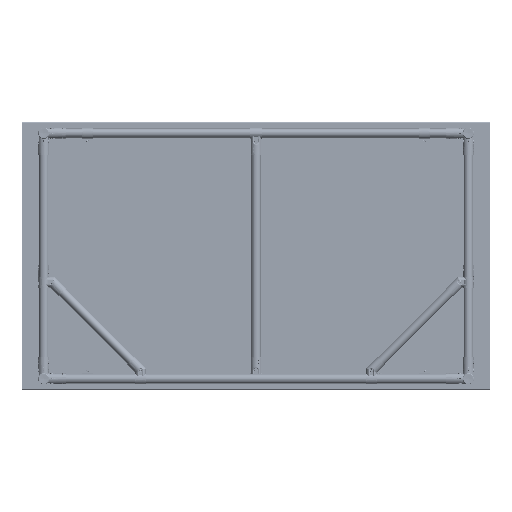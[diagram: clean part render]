
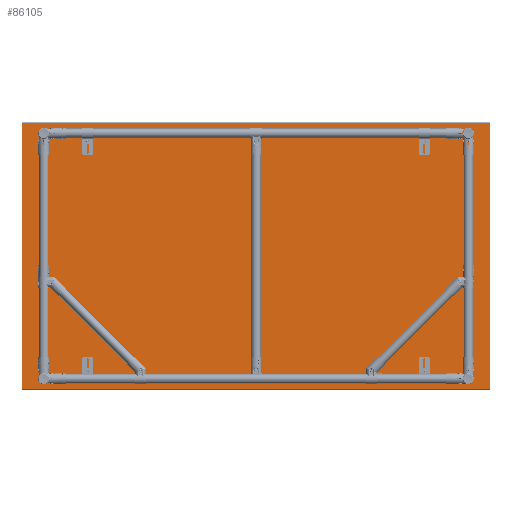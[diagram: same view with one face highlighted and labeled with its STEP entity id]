
A CAD part, front view. The second image highlights one B-rep face of the part: STEP entity #86105.
In plain terms, the highlighted planar face has unit normal (0, -1, 0) as drawn and (0, 0, -1) by its records, which use the part's own axes.
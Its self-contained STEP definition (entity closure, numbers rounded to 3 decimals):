
#5009 = CARTESIAN_POINT ( 'NONE',  ( 0., -399.2, 0. ) ) ;
#9926 = EDGE_CURVE ( 'NONE', #85460, #23663, #49194, .T. ) ;
#11237 = CARTESIAN_POINT ( 'NONE',  ( 699.2, 399.2, 0. ) ) ;
#12328 = EDGE_CURVE ( 'NONE', #65609, #79382, #26772, .T. ) ;
#15194 = EDGE_CURVE ( 'NONE', #79382, #85460, #19279, .T. ) ;
#19279 = LINE ( 'NONE', #28763, #80836 ) ;
#21098 = CARTESIAN_POINT ( 'NONE',  ( 699.2, -399.2, 0. ) ) ;
#22032 = DIRECTION ( 'NONE',  ( 1., 0., 0. ) ) ;
#22444 = VECTOR ( 'NONE', #103303, 1000. ) ;
#23663 = VERTEX_POINT ( 'NONE', #21098 ) ;
#26772 = LINE ( 'NONE', #75688, #43356 ) ;
#28763 = CARTESIAN_POINT ( 'NONE',  ( 0., 399.2, 0. ) ) ;
#30752 = EDGE_CURVE ( 'NONE', #23663, #65609, #78873, .T. ) ;
#41248 = CARTESIAN_POINT ( 'NONE',  ( 699.2, 0., 0. ) ) ;
#43356 = VECTOR ( 'NONE', #59243, 1000. ) ;
#46963 = CARTESIAN_POINT ( 'NONE',  ( 0., 0., 0. ) ) ;
#49186 = AXIS2_PLACEMENT_3D ( 'NONE', #46963, #80974, #22032 ) ;
#49194 = LINE ( 'NONE', #41248, #88530 ) ;
#52140 = ORIENTED_EDGE ( 'NONE', *, *, #9926, .T. ) ;
#59243 = DIRECTION ( 'NONE',  ( 0., 1., 0. ) ) ;
#60361 = PLANE ( 'NONE',  #49186 ) ;
#64764 = CARTESIAN_POINT ( 'NONE',  ( -699.2, -399.2, 0. ) ) ;
#65609 = VERTEX_POINT ( 'NONE', #64764 ) ;
#69604 = ORIENTED_EDGE ( 'NONE', *, *, #12328, .T. ) ;
#75688 = CARTESIAN_POINT ( 'NONE',  ( -699.2, 0., 0. ) ) ;
#77319 = FACE_OUTER_BOUND ( 'NONE', #97879, .T. ) ;
#78873 = LINE ( 'NONE', #5009, #22444 ) ;
#79382 = VERTEX_POINT ( 'NONE', #104430 ) ;
#80836 = VECTOR ( 'NONE', #100539, 1000. ) ;
#80974 = DIRECTION ( 'NONE',  ( 0., 0., 1. ) ) ;
#85460 = VERTEX_POINT ( 'NONE', #11237 ) ;
#86105 = ADVANCED_FACE ( 'NONE', ( #77319 ), #60361, .F. ) ;
#88530 = VECTOR ( 'NONE', #99180, 1000. ) ;
#89678 = ORIENTED_EDGE ( 'NONE', *, *, #30752, .T. ) ;
#95602 = ORIENTED_EDGE ( 'NONE', *, *, #15194, .T. ) ;
#97879 = EDGE_LOOP ( 'NONE', ( #95602, #52140, #89678, #69604 ) ) ;
#99180 = DIRECTION ( 'NONE',  ( 0., -1., 0. ) ) ;
#100539 = DIRECTION ( 'NONE',  ( 1., 0., 0. ) ) ;
#103303 = DIRECTION ( 'NONE',  ( -1., 0., 0. ) ) ;
#104430 = CARTESIAN_POINT ( 'NONE',  ( -699.2, 399.2, 0. ) ) ;
